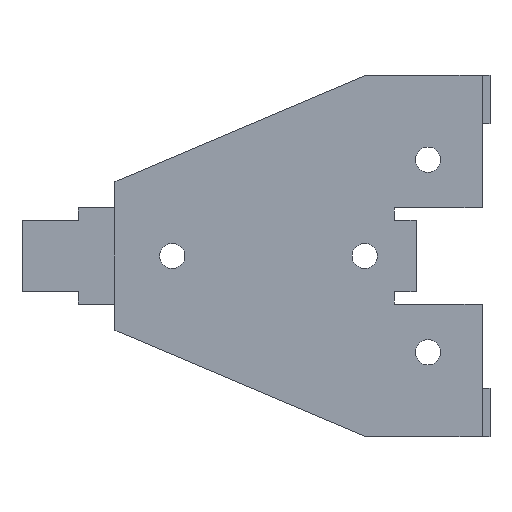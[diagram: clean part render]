
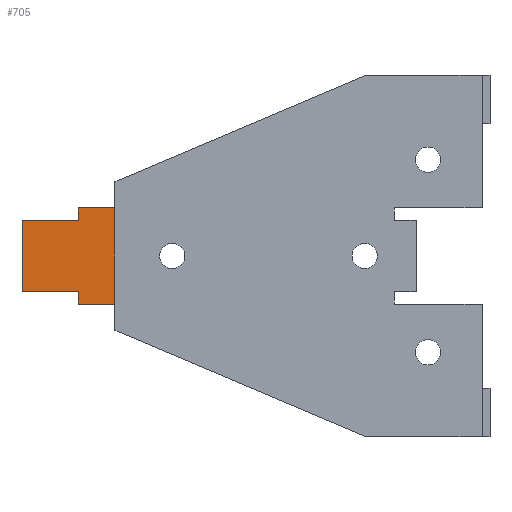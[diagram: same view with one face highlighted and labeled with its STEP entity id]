
A CAD part, left-side view. The second image highlights one B-rep face of the part: STEP entity #705.
In plain terms, the highlighted planar face has unit normal (-1, 0, 0).
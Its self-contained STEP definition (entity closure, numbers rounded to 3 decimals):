
#93 = AXIS2_PLACEMENT_3D ( 'NONE', #1368, #1377, #1378 ) ;
#506 = CARTESIAN_POINT ( 'NONE',  ( 1.5, 67.45, -5.9 ) ) ;
#508 = DIRECTION ( 'NONE',  ( 0., 1., 0. ) ) ;
#611 = EDGE_CURVE ( 'NONE', #897, #896, #2679, .T. ) ;
#705 = ADVANCED_FACE ( 'NONE', ( #2852 ), #1367, .F. ) ;
#896 = VERTEX_POINT ( 'NONE', #1860 ) ;
#897 = VERTEX_POINT ( 'NONE', #1861 ) ;
#935 = VERTEX_POINT ( 'NONE', #1899 ) ;
#955 = VERTEX_POINT ( 'NONE', #1919 ) ;
#956 = VERTEX_POINT ( 'NONE', #1920 ) ;
#1018 = VERTEX_POINT ( 'NONE', #1982 ) ;
#1019 = VERTEX_POINT ( 'NONE', #1983 ) ;
#1021 = VERTEX_POINT ( 'NONE', #2740 ) ;
#1149 = CARTESIAN_POINT ( 'NONE',  ( 1.5, 67.45, 15.37 ) ) ;
#1153 = DIRECTION ( 'NONE',  ( 0., 0., -1. ) ) ;
#1367 = PLANE ( 'NONE',  #93 ) ;
#1368 = CARTESIAN_POINT ( 'NONE',  ( 1.5, 58.1, 30. ) ) ;
#1377 = DIRECTION ( 'NONE',  ( 1., 0., 0. ) ) ;
#1378 = DIRECTION ( 'NONE',  ( 0., 0., -1. ) ) ;
#1860 = CARTESIAN_POINT ( 'NONE',  ( 1.5, 67.45, -5.9 ) ) ;
#1861 = CARTESIAN_POINT ( 'NONE',  ( 1.5, 67.45, 5.9 ) ) ;
#1899 = CARTESIAN_POINT ( 'NONE',  ( 1.5, 58.1, -5.9 ) ) ;
#1919 = CARTESIAN_POINT ( 'NONE',  ( 1.5, 58.1, 5.9 ) ) ;
#1920 = CARTESIAN_POINT ( 'NONE',  ( 1.5, 58.1, 8. ) ) ;
#1982 = CARTESIAN_POINT ( 'NONE',  ( 1.5, 52., -8. ) ) ;
#1983 = CARTESIAN_POINT ( 'NONE',  ( 1.5, 58.1, -8. ) ) ;
#1995 = EDGE_CURVE ( 'NONE', #935, #896, #3010, .T. ) ;
#2138 = EDGE_CURVE ( 'NONE', #955, #897, #3282, .T. ) ;
#2152 = EDGE_CURVE ( 'NONE', #956, #1021, #3310, .T. ) ;
#2160 = EDGE_CURVE ( 'NONE', #935, #1019, #3326, .T. ) ;
#2184 = EDGE_CURVE ( 'NONE', #1021, #1018, #3373, .T. ) ;
#2200 = EDGE_CURVE ( 'NONE', #1019, #1018, #3408, .T. ) ;
#2204 = EDGE_CURVE ( 'NONE', #956, #955, #3416, .T. ) ;
#2319 = ORIENTED_EDGE ( 'NONE', *, *, #2204, .T. ) ;
#2320 = ORIENTED_EDGE ( 'NONE', *, *, #2138, .T. ) ;
#2321 = ORIENTED_EDGE ( 'NONE', *, *, #611, .T. ) ;
#2322 = ORIENTED_EDGE ( 'NONE', *, *, #1995, .F. ) ;
#2323 = ORIENTED_EDGE ( 'NONE', *, *, #2160, .T. ) ;
#2324 = ORIENTED_EDGE ( 'NONE', *, *, #2200, .T. ) ;
#2325 = ORIENTED_EDGE ( 'NONE', *, *, #2184, .F. ) ;
#2326 = ORIENTED_EDGE ( 'NONE', *, *, #2152, .F. ) ;
#2678 = VECTOR ( 'NONE', #1153, 1000. ) ;
#2679 = LINE ( 'NONE', #1149, #2678 ) ;
#2740 = CARTESIAN_POINT ( 'NONE',  ( 1.5, 52., 8. ) ) ;
#2852 = FACE_OUTER_BOUND ( 'NONE', #4065, .T. ) ;
#3008 = VECTOR ( 'NONE', #508, 1000. ) ;
#3010 = LINE ( 'NONE', #506, #3008 ) ;
#3282 = LINE ( 'NONE', #3791, #3283 ) ;
#3283 = VECTOR ( 'NONE', #3792, 1000. ) ;
#3310 = LINE ( 'NONE', #3820, #3311 ) ;
#3311 = VECTOR ( 'NONE', #3821, 1000. ) ;
#3326 = LINE ( 'NONE', #3837, #3327 ) ;
#3327 = VECTOR ( 'NONE', #3838, 1000. ) ;
#3373 = LINE ( 'NONE', #3885, #3374 ) ;
#3374 = VECTOR ( 'NONE', #3886, 1000. ) ;
#3408 = LINE ( 'NONE', #3917, #3409 ) ;
#3409 = VECTOR ( 'NONE', #3918, 1000. ) ;
#3416 = LINE ( 'NONE', #3925, #3417 ) ;
#3417 = VECTOR ( 'NONE', #3926, 1000. ) ;
#3791 = CARTESIAN_POINT ( 'NONE',  ( 1.5, 67.45, 5.9 ) ) ;
#3792 = DIRECTION ( 'NONE',  ( 0., 1., 0. ) ) ;
#3820 = CARTESIAN_POINT ( 'NONE',  ( 1.5, 52., 8. ) ) ;
#3821 = DIRECTION ( 'NONE',  ( 0., -1., 0. ) ) ;
#3837 = CARTESIAN_POINT ( 'NONE',  ( 1.5, 58.1, 30. ) ) ;
#3838 = DIRECTION ( 'NONE',  ( 0., 0., -1. ) ) ;
#3885 = CARTESIAN_POINT ( 'NONE',  ( 1.5, 52., 30. ) ) ;
#3886 = DIRECTION ( 'NONE',  ( 0., 0., -1. ) ) ;
#3917 = CARTESIAN_POINT ( 'NONE',  ( 1.5, 58.1, -8. ) ) ;
#3918 = DIRECTION ( 'NONE',  ( 0., -1., 0. ) ) ;
#3925 = CARTESIAN_POINT ( 'NONE',  ( 1.5, 58.1, 30. ) ) ;
#3926 = DIRECTION ( 'NONE',  ( 0., 0., -1. ) ) ;
#4065 = EDGE_LOOP ( 'NONE', ( #2319, #2320, #2321, #2322, #2323, #2324, #2325, #2326 ) ) ;
